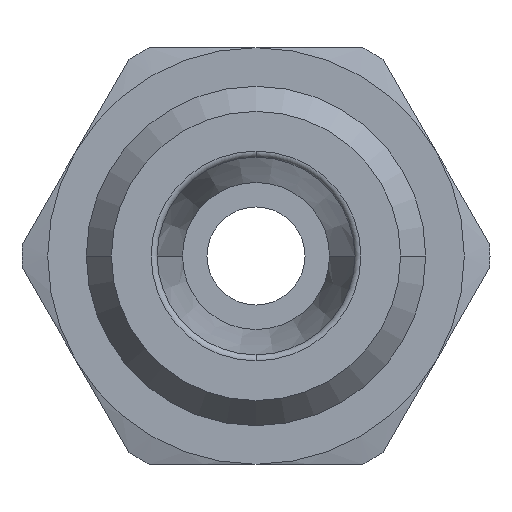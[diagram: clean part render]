
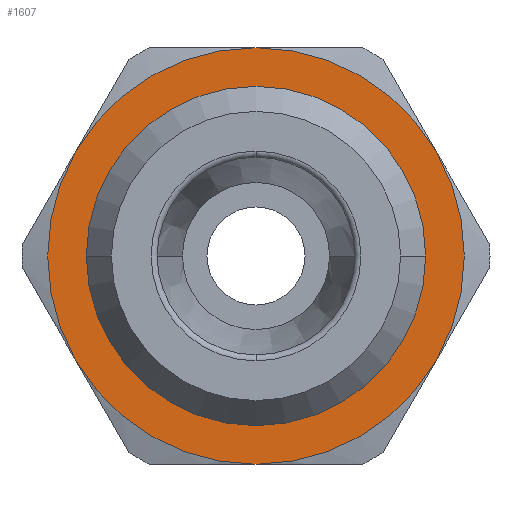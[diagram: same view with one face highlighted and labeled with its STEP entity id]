
A CAD part, left-side view. The second image highlights one B-rep face of the part: STEP entity #1607.
In plain terms, the highlighted planar face has unit normal (-1, 0, 0) as drawn and (0, 0, 1) by its records, which use the part's own axes.
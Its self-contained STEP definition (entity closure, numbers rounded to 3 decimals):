
#715=CARTESIAN_POINT('',(-6.8,0.,4.2));
#716=VERTEX_POINT('',#715);
#742=CARTESIAN_POINT('',(6.8,0.,4.2));
#743=VERTEX_POINT('',#742);
#751=CARTESIAN_POINT('',(0.,0.,4.2));
#752=DIRECTION('',(0.0,0.0,1.0));
#753=DIRECTION('',(-1.0,0.0,0.0));
#754=AXIS2_PLACEMENT_3D('',#751,#752,#753);
#755=CIRCLE('',#754,6.8);
#756=EDGE_CURVE('',#743,#716,#755,.T.);
#1487=CARTESIAN_POINT('',(0.,-6.8,4.2));
#1488=VERTEX_POINT('',#1487);
#1489=CARTESIAN_POINT('',(0.,0.,4.2));
#1490=DIRECTION('',(0.0,0.0,1.0));
#1491=DIRECTION('',(-1.0,0.0,0.0));
#1492=AXIS2_PLACEMENT_3D('',#1489,#1490,#1491);
#1493=CIRCLE('',#1492,6.8);
#1494=EDGE_CURVE('',#716,#1488,#1493,.T.);
#1496=CARTESIAN_POINT('',(0.,0.,4.2));
#1497=DIRECTION('',(0.0,0.0,1.0));
#1498=DIRECTION('',(-1.0,0.0,0.0));
#1499=AXIS2_PLACEMENT_3D('',#1496,#1497,#1498);
#1500=CIRCLE('',#1499,6.8);
#1501=EDGE_CURVE('',#1488,#743,#1500,.T.);
#1541=CARTESIAN_POINT('',(0.0,0.,4.2));
#1542=DIRECTION('',(0.0,0.0,1.0));
#1543=DIRECTION('',(1.0,0.0,0.0));
#1544=AXIS2_PLACEMENT_3D('',#1541,#1542,#1543);
#1545=PLANE('',#1544);
#1546=CARTESIAN_POINT('',(4.25,-7.361,4.2));
#1547=VERTEX_POINT('',#1546);
#1548=CARTESIAN_POINT('',(8.5,0.0,4.2));
#1549=VERTEX_POINT('',#1548);
#1550=CARTESIAN_POINT('',(0.,0.0,4.2));
#1551=DIRECTION('',(0.0,0.0,1.0));
#1552=DIRECTION('',(1.0,0.0,0.0));
#1553=AXIS2_PLACEMENT_3D('',#1550,#1551,#1552);
#1554=CIRCLE('',#1553,8.5);
#1555=EDGE_CURVE('',#1547,#1549,#1554,.T.);
#1556=ORIENTED_EDGE('',*,*,#1555,.T.);
#1557=CARTESIAN_POINT('',(4.25,7.361,4.2));
#1558=VERTEX_POINT('',#1557);
#1559=CARTESIAN_POINT('',(0.,0.0,4.2));
#1560=DIRECTION('',(0.0,0.0,1.0));
#1561=DIRECTION('',(1.0,0.0,0.0));
#1562=AXIS2_PLACEMENT_3D('',#1559,#1560,#1561);
#1563=CIRCLE('',#1562,8.5);
#1564=EDGE_CURVE('',#1549,#1558,#1563,.T.);
#1565=ORIENTED_EDGE('',*,*,#1564,.T.);
#1566=CARTESIAN_POINT('',(-4.25,7.361,4.2));
#1567=VERTEX_POINT('',#1566);
#1568=CARTESIAN_POINT('',(0.,0.0,4.2));
#1569=DIRECTION('',(0.0,0.0,1.0));
#1570=DIRECTION('',(1.0,0.0,0.0));
#1571=AXIS2_PLACEMENT_3D('',#1568,#1569,#1570);
#1572=CIRCLE('',#1571,8.5);
#1573=EDGE_CURVE('',#1558,#1567,#1572,.T.);
#1574=ORIENTED_EDGE('',*,*,#1573,.T.);
#1575=CARTESIAN_POINT('',(-8.5,0.,4.2));
#1576=VERTEX_POINT('',#1575);
#1577=CARTESIAN_POINT('',(0.,0.0,4.2));
#1578=DIRECTION('',(0.0,0.0,1.0));
#1579=DIRECTION('',(1.0,0.0,0.0));
#1580=AXIS2_PLACEMENT_3D('',#1577,#1578,#1579);
#1581=CIRCLE('',#1580,8.5);
#1582=EDGE_CURVE('',#1567,#1576,#1581,.T.);
#1583=ORIENTED_EDGE('',*,*,#1582,.T.);
#1584=CARTESIAN_POINT('',(-4.25,-7.361,4.2));
#1585=VERTEX_POINT('',#1584);
#1586=CARTESIAN_POINT('',(0.,0.0,4.2));
#1587=DIRECTION('',(0.0,0.0,1.0));
#1588=DIRECTION('',(1.0,0.0,0.0));
#1589=AXIS2_PLACEMENT_3D('',#1586,#1587,#1588);
#1590=CIRCLE('',#1589,8.5);
#1591=EDGE_CURVE('',#1576,#1585,#1590,.T.);
#1592=ORIENTED_EDGE('',*,*,#1591,.T.);
#1593=CARTESIAN_POINT('',(0.,0.0,4.2));
#1594=DIRECTION('',(0.0,0.0,1.0));
#1595=DIRECTION('',(1.0,0.0,0.0));
#1596=AXIS2_PLACEMENT_3D('',#1593,#1594,#1595);
#1597=CIRCLE('',#1596,8.5);
#1598=EDGE_CURVE('',#1585,#1547,#1597,.T.);
#1599=ORIENTED_EDGE('',*,*,#1598,.T.);
#1600=EDGE_LOOP('',(#1556,#1565,#1574,#1583,#1592,#1599));
#1601=FACE_OUTER_BOUND('',#1600,.T.);
#1602=ORIENTED_EDGE('',*,*,#1501,.F.);
#1603=ORIENTED_EDGE('',*,*,#1494,.F.);
#1604=ORIENTED_EDGE('',*,*,#756,.F.);
#1605=EDGE_LOOP('',(#1602,#1603,#1604));
#1606=FACE_BOUND('',#1605,.T.);
#1607=ADVANCED_FACE('',(#1601,#1606),#1545,.T.);
